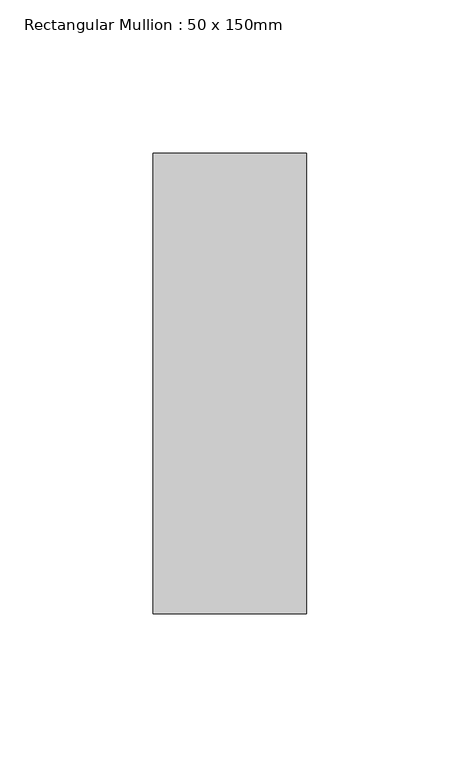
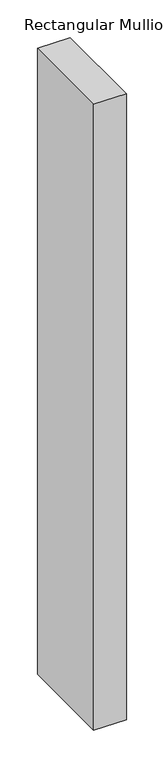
"""IFC4 building model written with IfcOpenShell, lengths in millimetres: member geometry, Rectangular Mullion : 50 x 150mm."""

from ifc_helpers import new_model, si_unit, frame, origin, place, context, project, spatial, polyline, outline, extrude, source, transform, mapped, element, save


def rectangular_mullion_50_x_150mm_1e34799e(model_context):
    return source(origin(), model_context, "Body", "SweptSolid", [
        extrude(outline(polyline([(0.0, 75.0), (0.0, -75.0), (-50.0, -75.0), (-50.0, 75.0), (0.0, 75.0)])), frame((0.0, 0.0, -1016.6809369), z_axis=(0.0, 0.0, 1.0), x_axis=(1.0, 0.0, 0.0)), (0.0, 0.0, 1.0), 1016.6809369),
    ])


if __name__ == "__main__":
    model = new_model("IFC4")
    model_context = context("Model", 3, world=origin())
    ifc_project = project(units=[si_unit("LENGTHUNIT", "METRE", prefix="MILLI")], contexts=[model_context])
    site = spatial("IfcSite", under=ifc_project)
    building = spatial("IfcBuilding", under=site)
    placement = place(None, origin())
    rectangular_mullion_50_x_150mm_shape = rectangular_mullion_50_x_150mm_1e34799e(model_context)
    element("IfcMember", 1, ObjectType="Rectangular Mullion : 50 x 150mm", at=placement, inside=building, context=model_context, shape_type="MappedRepresentation", body=[
        mapped(rectangular_mullion_50_x_150mm_shape, transform((0.0, 0.0, 0.0), x_axis=(1.0, 0.0, 0.0), y_axis=(0.0, 1.0, 0.0), z_axis=(0.0, 0.0, 1.0))),
    ])
    save(model, "model.ifc")
